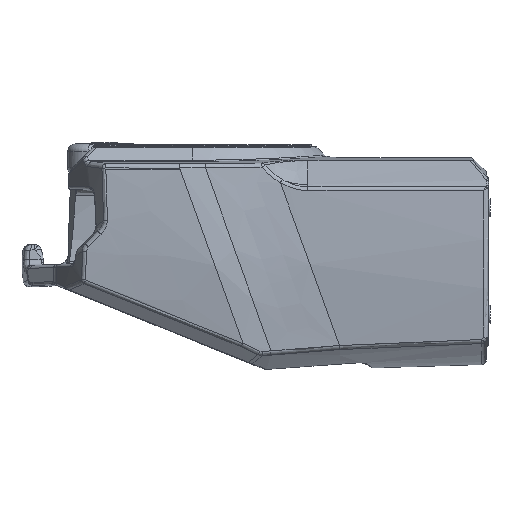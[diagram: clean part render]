
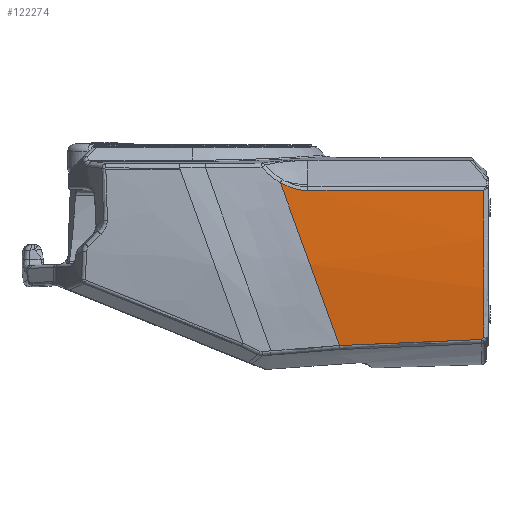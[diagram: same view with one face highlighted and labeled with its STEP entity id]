
A CAD part, left-side view. The second image highlights one B-rep face of the part: STEP entity #122274.
In plain terms, the highlighted cylindrical face has radius 745 mm (diameter 1490 mm), a partial arc.
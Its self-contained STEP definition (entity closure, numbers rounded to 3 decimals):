
#18267=CARTESIAN_POINT('',(-163.631,-0.5,
-77.208));
#18268=CARTESIAN_POINT('',(-163.527,0.232,
-78.));
#18269=CARTESIAN_POINT('',(-163.421,0.963,
-78.792));
#18270=CARTESIAN_POINT('',(-163.314,1.694,
-79.584));
#18275=CARTESIAN_POINT('',(-163.314,1.694,
-79.584));
#18276=CARTESIAN_POINT('',(-163.304,25.64,
-79.658));
#18277=CARTESIAN_POINT('',(-163.159,73.583,
-80.739));
#18278=CARTESIAN_POINT('',(-162.749,121.632,
-83.705));
#18279=CARTESIAN_POINT('',(-162.469,145.683,
-85.665));
#18284=CARTESIAN_POINT('',(-162.469,145.683,
-85.665));
#18285=CARTESIAN_POINT('',(-163.578,148.491,
-77.922));
#18286=CARTESIAN_POINT('',(-165.604,154.266,
-61.999));
#18287=CARTESIAN_POINT('',(-167.884,163.023,
-37.877));
#18288=CARTESIAN_POINT('',(-169.14,170.46,
-17.403));
#18289=CARTESIAN_POINT('',(-169.738,176.424,
-0.995));
#18290=CARTESIAN_POINT('',(-170.229,185.383,
23.643));
#18291=CARTESIAN_POINT('',(-169.655,195.127,
50.417));
#18292=CARTESIAN_POINT('',(-168.134,203.379,
73.069));
#18293=CARTESIAN_POINT('',(-167.633,205.663,
79.335));
#18298=CARTESIAN_POINT('',(-167.633,205.663,
79.335));
#18299=CARTESIAN_POINT('',(-167.731,203.527,
78.112));
#18300=CARTESIAN_POINT('',(-167.857,200.237,
76.474));
#18301=CARTESIAN_POINT('',(-167.989,195.641,
74.704));
#18302=CARTESIAN_POINT('',(-168.095,190.975,
73.245));
#18303=CARTESIAN_POINT('',(-168.182,185.042,
72.014));
#18304=CARTESIAN_POINT('',(-168.206,180.179,
71.672));
#18305=CARTESIAN_POINT('',(-168.206,177.718,
71.672));
#18310=DIRECTION('',(0.,1.,0.));
#18311=VECTOR('',#18310,178.218);
#18312=CARTESIAN_POINT('',(-168.206,-0.5,71.672));
#18313=LINE('',#18312,#18311);
#38422=CARTESIAN_POINT('',(575.,-0.5,20.));
#38423=DIRECTION('',(0.,1.,0.));
#38424=DIRECTION('',(-0.991,0.,-0.13));
#38425=AXIS2_PLACEMENT_3D('',#38422,#38423,#38424);
#89504=VERTEX_POINT('',#18284);
#89505=VERTEX_POINT('',#18293);
#89506=CARTESIAN_POINT('',(-168.206,-0.5,71.672));
#89507=CARTESIAN_POINT('',(-168.206,177.718,
71.672));
#89508=VERTEX_POINT('',#89506);
#89509=VERTEX_POINT('',#89507);
#89510=CARTESIAN_POINT('',(-163.631,-0.5,-77.208));
#89511=VERTEX_POINT('',#89510);
#89512=VERTEX_POINT('',#18270);
#122257=CARTESIAN_POINT('',(575.,-298.5,20.));
#122258=DIRECTION('',(0.,1.,0.));
#122259=DIRECTION('',(0.,0.,1.));
#122260=AXIS2_PLACEMENT_3D('',#122257,#122258,#122259);
#122261=CYLINDRICAL_SURFACE('',#122260,745.);
#122263=ORIENTED_EDGE('',*,*,#122262,.F.);
#122265=ORIENTED_EDGE('',*,*,#122264,.F.);
#122266=ORIENTED_EDGE('',*,*,#122238,.T.);
#122267=ORIENTED_EDGE('',*,*,#120916,.T.);
#122269=ORIENTED_EDGE('',*,*,#122268,.T.);
#122271=ORIENTED_EDGE('',*,*,#122270,.T.);
#122272=EDGE_LOOP('',(#122263,#122265,#122266,#122267,#122269,#122271));
#122273=FACE_OUTER_BOUND('',#122272,.F.);
#18271=B_SPLINE_CURVE_WITH_KNOTS('',3,(#18267,#18268,#18269,#18270),
.UNSPECIFIED.,.F.,.F.,(4,4),(0.,1.),.UNSPECIFIED.);
#18280=B_SPLINE_CURVE_WITH_KNOTS('',3,(#18275,#18276,#18277,#18278,#18279),
.UNSPECIFIED.,.F.,.F.,(4,1,4),(0.,0.5,1.),.UNSPECIFIED.);
#18294=B_SPLINE_CURVE_WITH_KNOTS('',3,(#18284,#18285,#18286,#18287,#18288,
#18289,#18290,#18291,#18292,#18293),.UNSPECIFIED.,.F.,.F.,(4,1,1,1,1,1,1,4),(
0.,0.142,0.291,0.439,0.514,
0.588,0.886,1.),.UNSPECIFIED.);
#18306=B_SPLINE_CURVE_WITH_KNOTS('',3,(#18298,#18299,#18300,#18301,#18302,
#18303,#18304,#18305),.UNSPECIFIED.,.F.,.F.,(4,1,1,1,1,4),(0.,
0.25,0.375,0.5,0.75,1.),
.UNSPECIFIED.);
#38426=CIRCLE('',#38425,745.);
#120916=EDGE_CURVE('',#89512,#89504,#18280,.T.);
#122238=EDGE_CURVE('',#89511,#89512,#18271,.T.);
#122262=EDGE_CURVE('',#89508,#89509,#18313,.T.);
#122264=EDGE_CURVE('',#89511,#89508,#38426,.T.);
#122268=EDGE_CURVE('',#89504,#89505,#18294,.T.);
#122270=EDGE_CURVE('',#89505,#89509,#18306,.T.);
#122274=ADVANCED_FACE('',(#122273),#122261,.T.);
